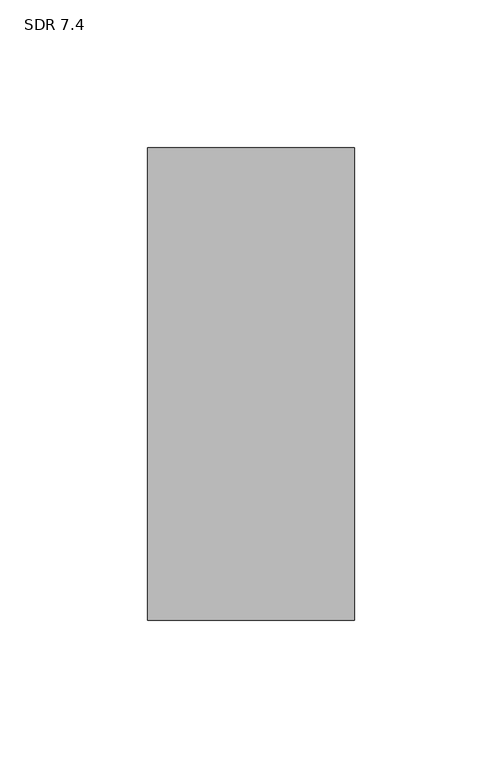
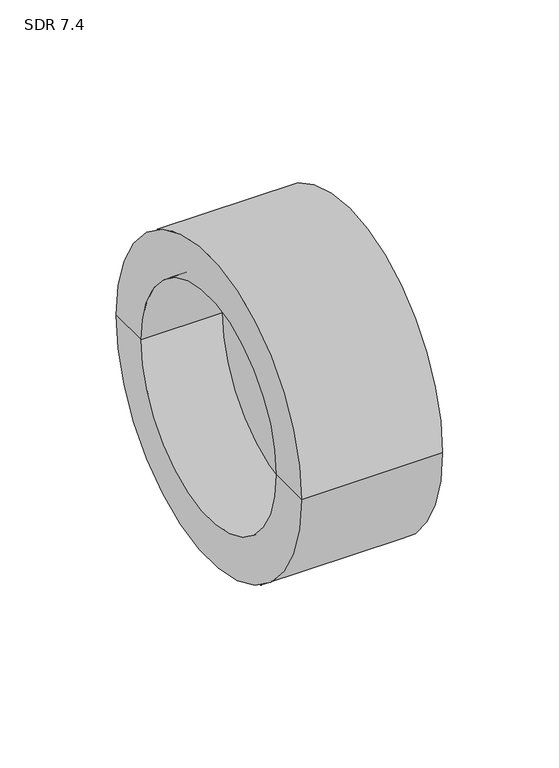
"""IFC4 building model written with IfcOpenShell, lengths in millimetres: pipe fitting geometry, Aquatherm - End Cap Butt-Weld : SDR 7.4."""

from ifc_helpers import new_model, si_unit, frame, origin, place, context, project, spatial, polyline, circle_curve, source, transform, mapped, element, save
from ifc_brep_helpers import plane_surface, cylinder_surface, revolved_surface, advanced_brep


def sdr_7_4_4a0d8d2b(model_context):
    return source(origin(), model_context, "Body", "AdvancedBrep", [
        advanced_brep(
        [(70.104, -80.01, 0.0), (70.104, 80.01, 0.0), (70.104, 0.0, 0.0), (40.64, 0.0, 0.0), (40.64, 58.42, 0.0), (40.64, -58.42, 0.0), (0.0, 58.42, 0.0), (0.0, -58.42, 0.0), (0.0, 80.01, 0.0), (0.0, -80.01, 0.0)],
        [
            (0, 1, circle_curve(frame((70.104, 0.0, 0.0), z_axis=(1.0, 0.0, 0.0), x_axis=(0.0, 1.0, 0.0)), 80.01)),
            (1, 2),
            (2, 0),
            (1, 0, circle_curve(frame((70.104, 0.0, 0.0), z_axis=(1.0, 0.0, 0.0), x_axis=(0.0, 1.0, 0.0)), 80.01)),
            (3, 4),
            (4, 5, circle_curve(frame((40.64, 0.0, 0.0), z_axis=(-1.0, 0.0, 0.0), x_axis=(0.0, 1.0, 0.0)), 58.42)),
            (5, 3),
            (5, 4, circle_curve(frame((40.64, 0.0, 0.0), z_axis=(-1.0, 0.0, 0.0), x_axis=(0.0, 1.0, 0.0)), 58.42)),
            (4, 6),
            (6, 7, circle_curve(frame((0.0, 0.0, 0.0), z_axis=(-1.0, 0.0, 0.0), x_axis=(0.0, 1.0, 0.0)), 58.42)),
            (7, 5),
            (7, 6, circle_curve(frame((0.0, 0.0, 0.0), z_axis=(-1.0, 0.0, 0.0), x_axis=(0.0, 1.0, 0.0)), 58.42)),
            (6, 8),
            (8, 9, circle_curve(frame((0.0, 0.0, 0.0), z_axis=(-1.0, 0.0, 0.0), x_axis=(0.0, 1.0, 0.0)), 80.01)),
            (9, 7),
            (9, 8, circle_curve(frame((0.0, 0.0, 0.0), z_axis=(-1.0, 0.0, 0.0), x_axis=(0.0, 1.0, 0.0)), 80.01)),
            (8, 1),
            (0, 9),
        ],
        [
            plane_surface(frame((70.104, 0.0, 0.0), z_axis=(1.0, 0.0, 0.0), x_axis=(0.0, 1.0, 0.0))),
            plane_surface(frame((40.64, 0.0, 0.0), z_axis=(-1.0, 0.0, 0.0), x_axis=(0.0, 1.0, 0.0))),
            revolved_surface(polyline([(0.0, 58.42, 0.0), (40.6400000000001, 58.42, 0.0)]), (-1373.886, 0.0, 0.0), (-1.0, 0.0, 0.0)),
            plane_surface(frame((0.0, 0.0, 0.0), z_axis=(-1.0, 0.0, 0.0), x_axis=(0.0, 1.0, 0.0))),
            cylinder_surface(frame((-1373.886, 0.0, 0.0), z_axis=(-1.0, 0.0, 0.0), x_axis=(0.0, 1.0, 0.0)), 80.01),
        ],
        [
            (0, [[1, 2, 3]]),
            (0, [[4, -3, -2]]),
            (1, [[5, 6, 7]]),
            (1, [[-7, 8, -5]]),
            (2, [[-6, 9, 10, 11]]),
            (2, [[-8, -11, 12, -9]]),
            (3, [[-10, 13, 14, 15]]),
            (3, [[-12, -15, 16, -13]]),
            (4, [[-14, 17, -1, 18]]),
            (4, [[-16, -18, -4, -17]]),
        ],
    ),
    ])


if __name__ == "__main__":
    model = new_model("IFC4")
    model_context = context("Model", 3, world=origin())
    ifc_project = project(units=[si_unit("LENGTHUNIT", "METRE", prefix="MILLI")], contexts=[model_context])
    site = spatial("IfcSite", under=ifc_project)
    building = spatial("IfcBuilding", under=site)
    placement = place(None, origin())
    sdr_7_4_shape = sdr_7_4_4a0d8d2b(model_context)
    element("IfcPipeFitting", 1, ObjectType="Aquatherm - End Cap Butt-Weld : SDR 7.4", at=placement, inside=building, context=model_context, shape_type="MappedRepresentation", body=[
        mapped(sdr_7_4_shape, transform((0.0, 0.0, 0.0), x_axis=(1.0, 0.0, 0.0), y_axis=(0.0, 1.0, 0.0), z_axis=(0.0, 0.0, 1.0))),
    ])
    save(model, "model.ifc")
